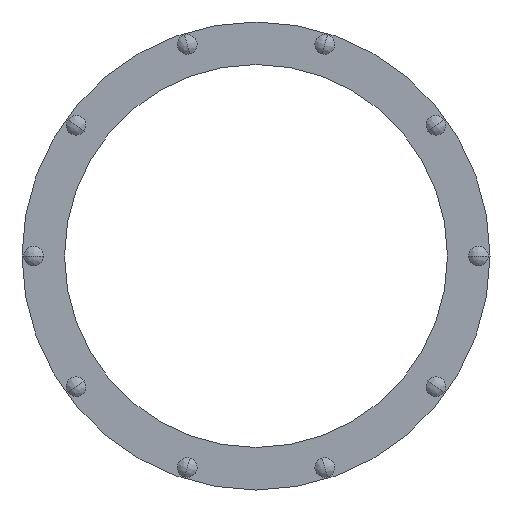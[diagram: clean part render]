
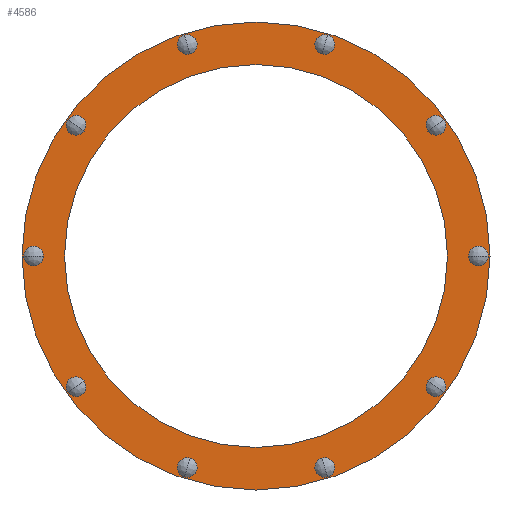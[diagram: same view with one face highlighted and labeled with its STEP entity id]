
A CAD part, front view. The second image highlights one B-rep face of the part: STEP entity #4586.
In plain terms, the highlighted planar face has unit normal (0, -1, 0).
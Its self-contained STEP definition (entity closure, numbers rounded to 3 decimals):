
#1613=CARTESIAN_POINT('',(0.,-151.,0.));
#1614=DIRECTION('',(0.,-1.,0.));
#1615=DIRECTION('',(-1.,0.,0.));
#1616=AXIS2_PLACEMENT_3D('',#1613,#1614,#1615);
#1622=CARTESIAN_POINT('',(0.,-151.,0.));
#1623=DIRECTION('',(0.,1.,0.));
#1624=DIRECTION('',(-1.,0.,0.));
#1625=AXIS2_PLACEMENT_3D('',#1622,#1623,#1624);
#1631=CARTESIAN_POINT('',(0.,-151.,0.));
#1632=DIRECTION('',(0.,-1.,0.));
#1633=DIRECTION('',(-1.,0.,0.));
#1634=AXIS2_PLACEMENT_3D('',#1631,#1632,#1633);
#1636=CARTESIAN_POINT('',(0.,-151.,0.));
#1637=DIRECTION('',(0.,1.,0.));
#1638=DIRECTION('',(-1.,0.,0.));
#1639=AXIS2_PLACEMENT_3D('',#1636,#1637,#1638);
#1641=CARTESIAN_POINT('',(-287.5,-151.,0.));
#1642=DIRECTION('',(0.,1.,0.));
#1643=DIRECTION('',(-1.,0.,0.));
#1644=AXIS2_PLACEMENT_3D('',#1641,#1642,#1643);
#1646=CARTESIAN_POINT('',(-287.5,-151.,0.));
#1647=DIRECTION('',(0.,1.,0.));
#1648=DIRECTION('',(1.,0.,0.));
#1649=AXIS2_PLACEMENT_3D('',#1646,#1647,#1648);
#1651=CARTESIAN_POINT('',(-232.592,-151.,-168.988));
#1652=DIRECTION('',(0.,1.,0.));
#1653=DIRECTION('',(-0.809,0.,-0.588));
#1654=AXIS2_PLACEMENT_3D('',#1651,#1652,#1653);
#1656=CARTESIAN_POINT('',(-232.592,-151.,-168.988));
#1657=DIRECTION('',(0.,1.,0.));
#1658=DIRECTION('',(0.809,0.,0.588));
#1659=AXIS2_PLACEMENT_3D('',#1656,#1657,#1658);
#1661=CARTESIAN_POINT('',(-88.842,-151.,-273.429));
#1662=DIRECTION('',(0.,1.,0.));
#1663=DIRECTION('',(-0.309,0.,-0.951));
#1664=AXIS2_PLACEMENT_3D('',#1661,#1662,#1663);
#1666=CARTESIAN_POINT('',(-88.842,-151.,-273.429));
#1667=DIRECTION('',(0.,1.,0.));
#1668=DIRECTION('',(0.309,0.,0.951));
#1669=AXIS2_PLACEMENT_3D('',#1666,#1667,#1668);
#1671=CARTESIAN_POINT('',(88.842,-151.,-273.429));
#1672=DIRECTION('',(0.,1.,0.));
#1673=DIRECTION('',(0.309,0.,-0.951));
#1674=AXIS2_PLACEMENT_3D('',#1671,#1672,#1673);
#1676=CARTESIAN_POINT('',(88.842,-151.,-273.429));
#1677=DIRECTION('',(0.,1.,0.));
#1678=DIRECTION('',(-0.309,0.,0.951));
#1679=AXIS2_PLACEMENT_3D('',#1676,#1677,#1678);
#1681=CARTESIAN_POINT('',(232.592,-151.,-168.988));
#1682=DIRECTION('',(0.,1.,0.));
#1683=DIRECTION('',(0.809,0.,-0.588));
#1684=AXIS2_PLACEMENT_3D('',#1681,#1682,#1683);
#1686=CARTESIAN_POINT('',(232.592,-151.,-168.988));
#1687=DIRECTION('',(0.,1.,0.));
#1688=DIRECTION('',(-0.809,0.,0.588));
#1689=AXIS2_PLACEMENT_3D('',#1686,#1687,#1688);
#1691=CARTESIAN_POINT('',(287.5,-151.,0.));
#1692=DIRECTION('',(0.,1.,0.));
#1693=DIRECTION('',(1.,0.,0.));
#1694=AXIS2_PLACEMENT_3D('',#1691,#1692,#1693);
#1696=CARTESIAN_POINT('',(287.5,-151.,0.));
#1697=DIRECTION('',(0.,1.,0.));
#1698=DIRECTION('',(-1.,0.,0.));
#1699=AXIS2_PLACEMENT_3D('',#1696,#1697,#1698);
#1701=CARTESIAN_POINT('',(232.592,-151.,168.988));
#1702=DIRECTION('',(0.,1.,0.));
#1703=DIRECTION('',(0.809,0.,0.588));
#1704=AXIS2_PLACEMENT_3D('',#1701,#1702,#1703);
#1706=CARTESIAN_POINT('',(232.592,-151.,168.988));
#1707=DIRECTION('',(0.,1.,0.));
#1708=DIRECTION('',(-0.809,0.,-0.588));
#1709=AXIS2_PLACEMENT_3D('',#1706,#1707,#1708);
#1711=CARTESIAN_POINT('',(88.842,-151.,273.429));
#1712=DIRECTION('',(0.,1.,0.));
#1713=DIRECTION('',(0.309,0.,0.951));
#1714=AXIS2_PLACEMENT_3D('',#1711,#1712,#1713);
#1716=CARTESIAN_POINT('',(88.842,-151.,273.429));
#1717=DIRECTION('',(0.,1.,0.));
#1718=DIRECTION('',(-0.309,0.,-0.951));
#1719=AXIS2_PLACEMENT_3D('',#1716,#1717,#1718);
#1721=CARTESIAN_POINT('',(-88.842,-151.,273.429));
#1722=DIRECTION('',(0.,1.,0.));
#1723=DIRECTION('',(-0.309,0.,0.951));
#1724=AXIS2_PLACEMENT_3D('',#1721,#1722,#1723);
#1726=CARTESIAN_POINT('',(-88.842,-151.,273.429));
#1727=DIRECTION('',(0.,1.,0.));
#1728=DIRECTION('',(0.309,0.,-0.951));
#1729=AXIS2_PLACEMENT_3D('',#1726,#1727,#1728);
#1731=CARTESIAN_POINT('',(-232.592,-151.,168.988));
#1732=DIRECTION('',(0.,1.,0.));
#1733=DIRECTION('',(-0.809,0.,0.588));
#1734=AXIS2_PLACEMENT_3D('',#1731,#1732,#1733);
#1736=CARTESIAN_POINT('',(-232.592,-151.,168.988));
#1737=DIRECTION('',(0.,1.,0.));
#1738=DIRECTION('',(0.809,0.,-0.588));
#1739=AXIS2_PLACEMENT_3D('',#1736,#1737,#1738);
#3239=CARTESIAN_POINT('',(-302.5,-151.,0.));
#3241=VERTEX_POINT('',#3239);
#3242=CARTESIAN_POINT('',(-247.5,-151.,0.));
#3244=VERTEX_POINT('',#3242);
#3257=CARTESIAN_POINT('',(302.5,-151.,0.));
#3259=VERTEX_POINT('',#3257);
#3260=CARTESIAN_POINT('',(247.5,-151.,0.));
#3262=VERTEX_POINT('',#3260);
#3330=CARTESIAN_POINT('',(-300.25,-151.,0.));
#3331=VERTEX_POINT('',#3330);
#3332=CARTESIAN_POINT('',(-274.75,-151.,0.));
#3333=VERTEX_POINT('',#3332);
#3372=CARTESIAN_POINT('',(-242.907,-151.,-176.483));
#3373=VERTEX_POINT('',#3372);
#3374=CARTESIAN_POINT('',(-222.277,-151.,-161.494));
#3375=VERTEX_POINT('',#3374);
#3414=CARTESIAN_POINT('',(-92.782,-151.,-285.555));
#3415=VERTEX_POINT('',#3414);
#3416=CARTESIAN_POINT('',(-84.902,-151.,-261.303));
#3417=VERTEX_POINT('',#3416);
#3456=CARTESIAN_POINT('',(92.782,-151.,-285.555));
#3457=VERTEX_POINT('',#3456);
#3458=CARTESIAN_POINT('',(84.902,-151.,-261.303));
#3459=VERTEX_POINT('',#3458);
#3498=CARTESIAN_POINT('',(242.907,-151.,-176.483));
#3499=VERTEX_POINT('',#3498);
#3500=CARTESIAN_POINT('',(222.277,-151.,-161.494));
#3501=VERTEX_POINT('',#3500);
#3540=CARTESIAN_POINT('',(300.25,-151.,0.));
#3541=VERTEX_POINT('',#3540);
#3542=CARTESIAN_POINT('',(274.75,-151.,0.));
#3543=VERTEX_POINT('',#3542);
#3602=CARTESIAN_POINT('',(242.907,-151.,176.483));
#3603=VERTEX_POINT('',#3602);
#3604=CARTESIAN_POINT('',(222.277,-151.,161.494));
#3605=VERTEX_POINT('',#3604);
#3644=CARTESIAN_POINT('',(92.782,-151.,285.555));
#3645=VERTEX_POINT('',#3644);
#3646=CARTESIAN_POINT('',(84.902,-151.,261.303));
#3647=VERTEX_POINT('',#3646);
#3686=CARTESIAN_POINT('',(-92.782,-151.,285.555));
#3687=VERTEX_POINT('',#3686);
#3688=CARTESIAN_POINT('',(-84.902,-151.,261.303));
#3689=VERTEX_POINT('',#3688);
#3728=CARTESIAN_POINT('',(-242.907,-151.,176.483));
#3729=VERTEX_POINT('',#3728);
#3730=CARTESIAN_POINT('',(-222.277,-151.,161.494));
#3731=VERTEX_POINT('',#3730);
#4511=CARTESIAN_POINT('',(0.,-151.,0.));
#4512=DIRECTION('',(0.,-1.,0.));
#4513=DIRECTION('',(-1.,0.,0.));
#4514=AXIS2_PLACEMENT_3D('',#4511,#4512,#4513);
#4515=PLANE('',#4514);
#4517=ORIENTED_EDGE('',*,*,#4516,.F.);
#4519=ORIENTED_EDGE('',*,*,#4518,.T.);
#4520=EDGE_LOOP('',(#4517,#4519));
#4521=FACE_OUTER_BOUND('',#4520,.F.);
#4522=ORIENTED_EDGE('',*,*,#4504,.F.);
#4523=ORIENTED_EDGE('',*,*,#4493,.T.);
#4524=EDGE_LOOP('',(#4522,#4523));
#4525=FACE_BOUND('',#4524,.F.);
#4527=ORIENTED_EDGE('',*,*,#4526,.F.);
#4529=ORIENTED_EDGE('',*,*,#4528,.F.);
#4530=EDGE_LOOP('',(#4527,#4529));
#4531=FACE_BOUND('',#4530,.F.);
#4533=ORIENTED_EDGE('',*,*,#4532,.F.);
#4535=ORIENTED_EDGE('',*,*,#4534,.F.);
#4536=EDGE_LOOP('',(#4533,#4535));
#4537=FACE_BOUND('',#4536,.F.);
#4539=ORIENTED_EDGE('',*,*,#4538,.F.);
#4541=ORIENTED_EDGE('',*,*,#4540,.F.);
#4542=EDGE_LOOP('',(#4539,#4541));
#4543=FACE_BOUND('',#4542,.F.);
#4545=ORIENTED_EDGE('',*,*,#4544,.F.);
#4547=ORIENTED_EDGE('',*,*,#4546,.F.);
#4548=EDGE_LOOP('',(#4545,#4547));
#4549=FACE_BOUND('',#4548,.F.);
#4551=ORIENTED_EDGE('',*,*,#4550,.F.);
#4553=ORIENTED_EDGE('',*,*,#4552,.F.);
#4554=EDGE_LOOP('',(#4551,#4553));
#4555=FACE_BOUND('',#4554,.F.);
#4557=ORIENTED_EDGE('',*,*,#4556,.F.);
#4559=ORIENTED_EDGE('',*,*,#4558,.F.);
#4560=EDGE_LOOP('',(#4557,#4559));
#4561=FACE_BOUND('',#4560,.F.);
#4563=ORIENTED_EDGE('',*,*,#4562,.F.);
#4565=ORIENTED_EDGE('',*,*,#4564,.F.);
#4566=EDGE_LOOP('',(#4563,#4565));
#4567=FACE_BOUND('',#4566,.F.);
#4569=ORIENTED_EDGE('',*,*,#4568,.F.);
#4571=ORIENTED_EDGE('',*,*,#4570,.F.);
#4572=EDGE_LOOP('',(#4569,#4571));
#4573=FACE_BOUND('',#4572,.F.);
#4575=ORIENTED_EDGE('',*,*,#4574,.F.);
#4577=ORIENTED_EDGE('',*,*,#4576,.F.);
#4578=EDGE_LOOP('',(#4575,#4577));
#4579=FACE_BOUND('',#4578,.F.);
#4581=ORIENTED_EDGE('',*,*,#4580,.F.);
#4583=ORIENTED_EDGE('',*,*,#4582,.F.);
#4584=EDGE_LOOP('',(#4581,#4583));
#4585=FACE_BOUND('',#4584,.F.);
#4586=ADVANCED_FACE('',(#4521,#4525,#4531,#4537,#4543,#4549,#4555,#4561,#4567,
#4573,#4579,#4585),#4515,.T.);
#1617=CIRCLE('',#1616,247.5);
#1626=CIRCLE('',#1625,247.5);
#1635=CIRCLE('',#1634,302.5);
#1640=CIRCLE('',#1639,302.5);
#1645=CIRCLE('',#1644,12.75);
#1650=CIRCLE('',#1649,12.75);
#1655=CIRCLE('',#1654,12.75);
#1660=CIRCLE('',#1659,12.75);
#1665=CIRCLE('',#1664,12.75);
#1670=CIRCLE('',#1669,12.75);
#1675=CIRCLE('',#1674,12.75);
#1680=CIRCLE('',#1679,12.75);
#1685=CIRCLE('',#1684,12.75);
#1690=CIRCLE('',#1689,12.75);
#1695=CIRCLE('',#1694,12.75);
#1700=CIRCLE('',#1699,12.75);
#1705=CIRCLE('',#1704,12.75);
#1710=CIRCLE('',#1709,12.75);
#1715=CIRCLE('',#1714,12.75);
#1720=CIRCLE('',#1719,12.75);
#1725=CIRCLE('',#1724,12.75);
#1730=CIRCLE('',#1729,12.75);
#1735=CIRCLE('',#1734,12.75);
#1740=CIRCLE('',#1739,12.75);
#4493=EDGE_CURVE('',#3244,#3262,#1617,.T.);
#4504=EDGE_CURVE('',#3244,#3262,#1626,.T.);
#4516=EDGE_CURVE('',#3241,#3259,#1635,.T.);
#4518=EDGE_CURVE('',#3241,#3259,#1640,.T.);
#4526=EDGE_CURVE('',#3331,#3333,#1645,.T.);
#4528=EDGE_CURVE('',#3333,#3331,#1650,.T.);
#4532=EDGE_CURVE('',#3373,#3375,#1655,.T.);
#4534=EDGE_CURVE('',#3375,#3373,#1660,.T.);
#4538=EDGE_CURVE('',#3415,#3417,#1665,.T.);
#4540=EDGE_CURVE('',#3417,#3415,#1670,.T.);
#4544=EDGE_CURVE('',#3457,#3459,#1675,.T.);
#4546=EDGE_CURVE('',#3459,#3457,#1680,.T.);
#4550=EDGE_CURVE('',#3499,#3501,#1685,.T.);
#4552=EDGE_CURVE('',#3501,#3499,#1690,.T.);
#4556=EDGE_CURVE('',#3541,#3543,#1695,.T.);
#4558=EDGE_CURVE('',#3543,#3541,#1700,.T.);
#4562=EDGE_CURVE('',#3603,#3605,#1705,.T.);
#4564=EDGE_CURVE('',#3605,#3603,#1710,.T.);
#4568=EDGE_CURVE('',#3645,#3647,#1715,.T.);
#4570=EDGE_CURVE('',#3647,#3645,#1720,.T.);
#4574=EDGE_CURVE('',#3687,#3689,#1725,.T.);
#4576=EDGE_CURVE('',#3689,#3687,#1730,.T.);
#4580=EDGE_CURVE('',#3729,#3731,#1735,.T.);
#4582=EDGE_CURVE('',#3731,#3729,#1740,.T.);
